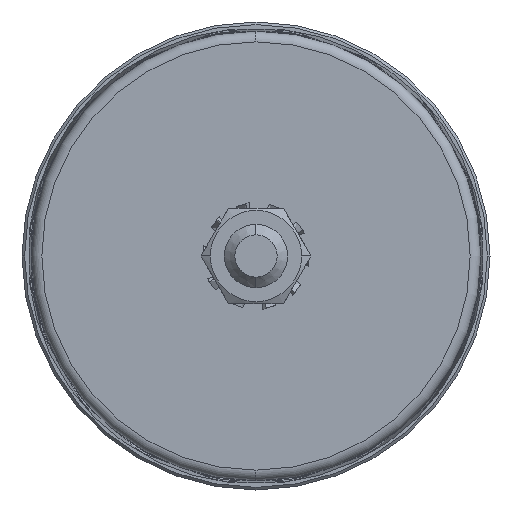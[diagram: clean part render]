
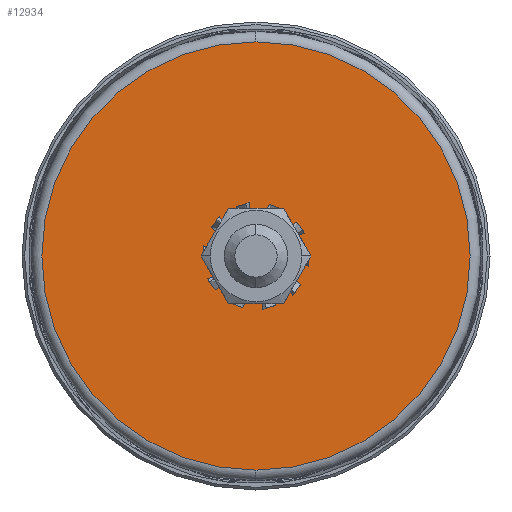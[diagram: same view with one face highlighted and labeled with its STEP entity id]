
A CAD part, front view. The second image highlights one B-rep face of the part: STEP entity #12934.
In plain terms, the highlighted planar face has unit normal (0, -1, 0).
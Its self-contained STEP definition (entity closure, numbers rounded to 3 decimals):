
#593 = DIRECTION ( 'NONE',  ( 0., -1., 0. ) ) ;
#1191 = CIRCLE ( 'NONE', #8674, 40.5 ) ;
#1589 = ORIENTED_EDGE ( 'NONE', *, *, #3236, .T. ) ;
#1674 = ORIENTED_EDGE ( 'NONE', *, *, #14457, .T. ) ;
#2176 = CARTESIAN_POINT ( 'NONE',  ( 0., 0., 8. ) ) ;
#2400 = CIRCLE ( 'NONE', #8698, 40.5 ) ;
#2543 = PLANE ( 'NONE',  #12908 ) ;
#2855 = CARTESIAN_POINT ( 'NONE',  ( 0., 0., 0. ) ) ;
#3153 = CARTESIAN_POINT ( 'NONE',  ( 0., 0., 0. ) ) ;
#3236 = EDGE_CURVE ( 'NONE', #7582, #10155, #2400, .T. ) ;
#3406 = DIRECTION ( 'NONE',  ( 0., -1., 0. ) ) ;
#3414 = CARTESIAN_POINT ( 'NONE',  ( 0., 0., 40.5 ) ) ;
#3618 = ORIENTED_EDGE ( 'NONE', *, *, #12543, .T. ) ;
#4102 = DIRECTION ( 'NONE',  ( 0., -1., 0. ) ) ;
#4798 = AXIS2_PLACEMENT_3D ( 'NONE', #3153, #11568, #15440 ) ;
#4970 = CARTESIAN_POINT ( 'NONE',  ( 6., 0., 0. ) ) ;
#5069 = DIRECTION ( 'NONE',  ( 0., 0., -1. ) ) ;
#5709 = DIRECTION ( 'NONE',  ( 0., 0., -1. ) ) ;
#5865 = ORIENTED_EDGE ( 'NONE', *, *, #11949, .T. ) ;
#5886 = DIRECTION ( 'NONE',  ( 0., 0., -1. ) ) ;
#6812 = EDGE_LOOP ( 'NONE', ( #5865, #1589 ) ) ;
#7582 = VERTEX_POINT ( 'NONE', #3414 ) ;
#8056 = FACE_OUTER_BOUND ( 'NONE', #6812, .T. ) ;
#8674 = AXIS2_PLACEMENT_3D ( 'NONE', #2855, #4102, #5069 ) ;
#8698 = AXIS2_PLACEMENT_3D ( 'NONE', #9407, #3406, #5886 ) ;
#9407 = CARTESIAN_POINT ( 'NONE',  ( 0., 0., 0. ) ) ;
#9431 = AXIS2_PLACEMENT_3D ( 'NONE', #9847, #11029, #12274 ) ;
#9485 = EDGE_LOOP ( 'NONE', ( #1674, #3618 ) ) ;
#9847 = CARTESIAN_POINT ( 'NONE',  ( 0., 0., 0. ) ) ;
#10155 = VERTEX_POINT ( 'NONE', #12835 ) ;
#11029 = DIRECTION ( 'NONE',  ( 0., 1., 0. ) ) ;
#11568 = DIRECTION ( 'NONE',  ( 0., 1., 0. ) ) ;
#11859 = CIRCLE ( 'NONE', #9431, 8. ) ;
#11949 = EDGE_CURVE ( 'NONE', #10155, #7582, #1191, .T. ) ;
#12274 = DIRECTION ( 'NONE',  ( 0., 0., -1. ) ) ;
#12543 = EDGE_CURVE ( 'NONE', #13275, #13068, #12881, .T. ) ;
#12835 = CARTESIAN_POINT ( 'NONE',  ( 0., 0., -40.5 ) ) ;
#12881 = CIRCLE ( 'NONE', #4798, 8. ) ;
#12908 = AXIS2_PLACEMENT_3D ( 'NONE', #4970, #593, #5709 ) ;
#12934 = ADVANCED_FACE ( 'NONE', ( #14403, #8056 ), #2543, .T. ) ;
#13068 = VERTEX_POINT ( 'NONE', #13449 ) ;
#13275 = VERTEX_POINT ( 'NONE', #2176 ) ;
#13449 = CARTESIAN_POINT ( 'NONE',  ( 0., 0., -8. ) ) ;
#14403 = FACE_BOUND ( 'NONE', #9485, .T. ) ;
#14457 = EDGE_CURVE ( 'NONE', #13068, #13275, #11859, .T. ) ;
#15440 = DIRECTION ( 'NONE',  ( 0., 0., -1. ) ) ;
